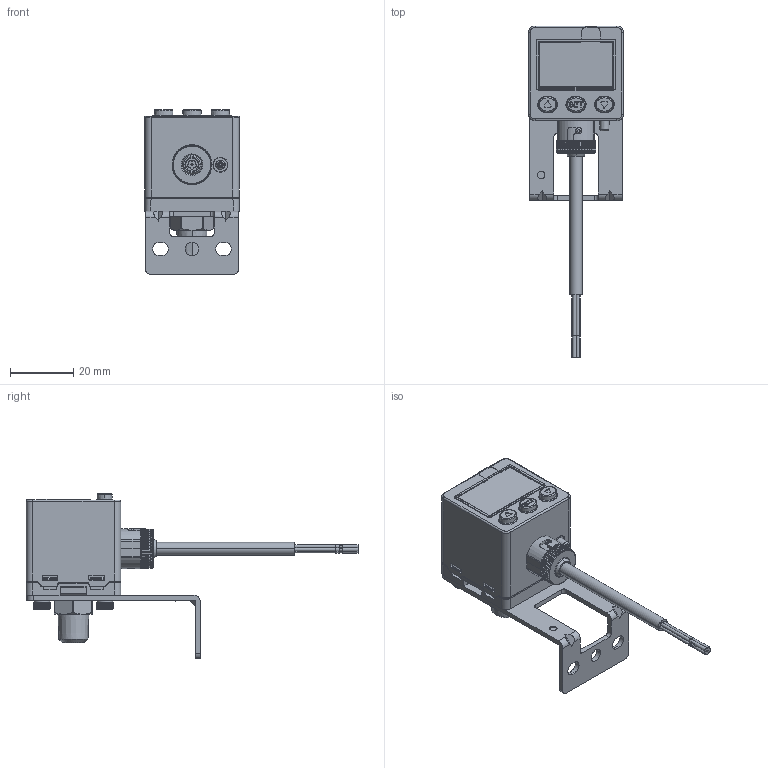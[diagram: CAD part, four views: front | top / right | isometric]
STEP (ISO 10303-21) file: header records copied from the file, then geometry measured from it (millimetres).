
FILE_DESCRIPTION((''),'2;1');
FILE_NAME('KP45_BT-11','2019-07-05T',('Stark'),(''),'CREO PARAMETRIC BY PTC INC, 2014500','CREO PARAMETRIC BY PTC INC, 2014500','');
FILE_SCHEMA(('CONFIG_CONTROL_DESIGN'));
Products named in the file (1): KP45_BT-11
Bounding box: 30.08 x 105.34 x 52.2 mm (x, y, z)
Volume: 32388 mm3; surface area: 11086.7 mm2
Topology: 1 solids, 2 shells, 1426 faces, 3766 edges, 2380 vertices
Faces by surface type: plane 663, cylinder 421, cone 236, bspline 62, torus 26, extrusion 10, sphere 8
Entity records: 54374 total; most frequent: CARTESIAN_POINT 21120, ORIENTED_EDGE 7512, DIRECTION 6125, EDGE_CURVE 3756, VERTEX_POINT 2380, AXIS2_PLACEMENT_3D 2242, VECTOR 1641, LINE 1631
